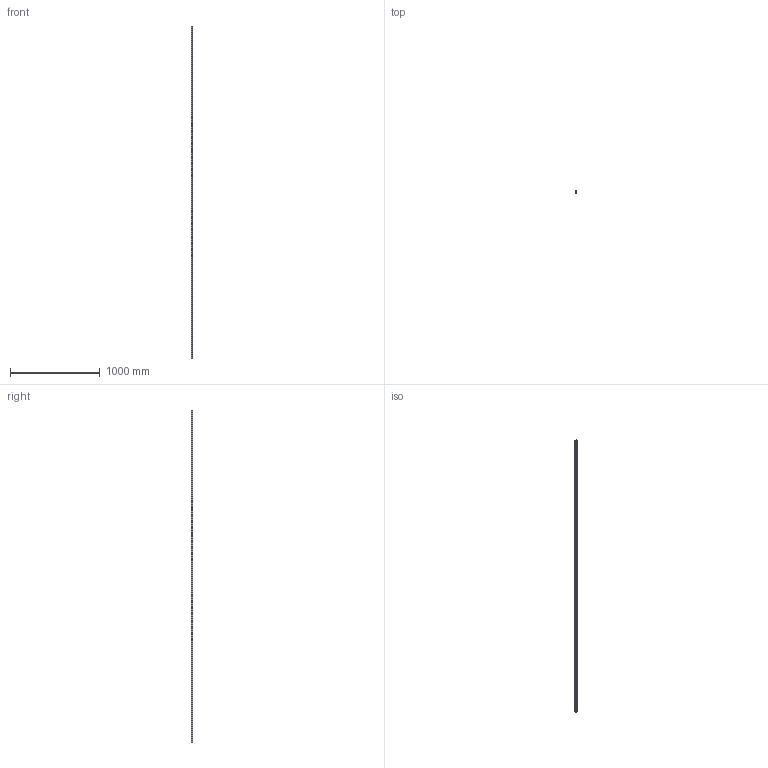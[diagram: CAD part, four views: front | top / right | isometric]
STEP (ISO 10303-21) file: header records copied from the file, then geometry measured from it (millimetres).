
FILE_DESCRIPTION (( 'STEP AP203' ), '1' );
FILE_NAME ('L1016.BL20-3700.step', '2019-06-12T11:58:11', ( '' ), ( '' ), 'SwSTEP 2.0', 'SolidWorks 2017', '' );
FILE_SCHEMA (( 'CONFIG_CONTROL_DESIGN' ));
Length unit declared in the file: millimetre
Products named in the file (1): L1016.BL20-3700
Bounding box: 20 x 16.3 x 3700 mm (x, y, z)
Volume: 1028565.3 mm3; surface area: 297434.8 mm2
Topology: 1 solids, 1 shells, 336 faces, 816 edges, 544 vertices
Faces by surface type: cylinder 252, plane 84
Entity records: 10449 total; most frequent: DIRECTION 1994, CARTESIAN_POINT 1697, ORIENTED_EDGE 1632, AXIS2_PLACEMENT_3D 841, EDGE_CURVE 816, VERTEX_POINT 544, EDGE_LOOP 522, CIRCLE 504
